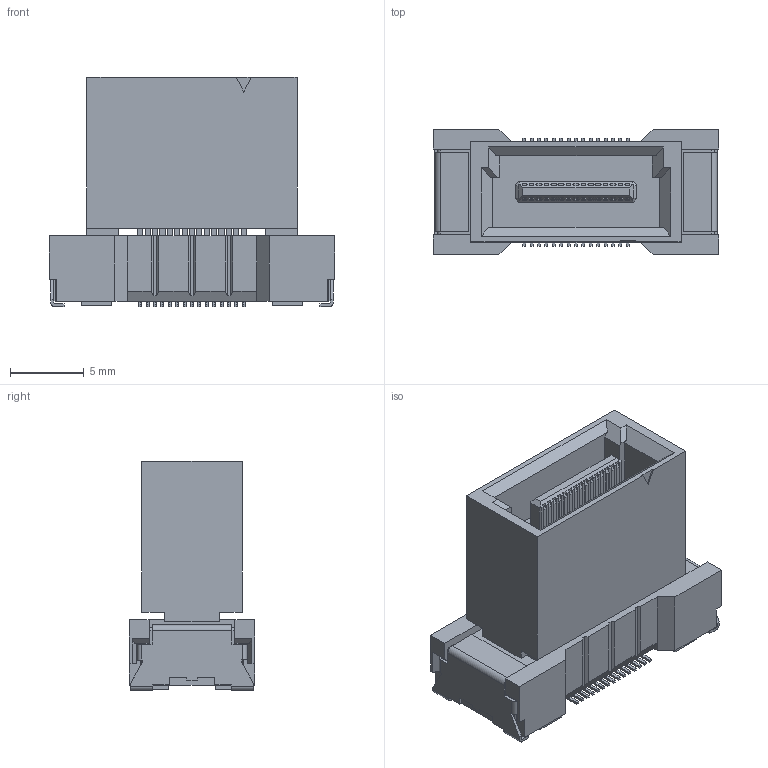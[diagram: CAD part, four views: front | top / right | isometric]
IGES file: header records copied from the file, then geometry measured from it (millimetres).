
Start section: Elysium IGES Interface
Global section: file name: 146HG:\その他\DT関連\【59期以前】\DT_CADﾃﾞｰﾀ\DT_3DCAD\DT0□\FS-10\60-36-0113_WEBサイトアップロード用\ボス無し_DT00-XXXFS-10\P3E104_DT00-030FS-10-T.igs; native system: Creo Elements/Direct Modeling 20.4A  18-Oct-2021; preprocessor: Creo Element/Direct IGES_3D V2.2; author: Unknown; organization: Unknown; date: 20220225.174209; units: millimetre
Bounding box: 19.3 x 8.5 x 15.5 mm (x, y, z)
Volume: 1444.5 mm3; surface area: 1457.5 mm2
Topology: 1 solids, 1 shells, 1027 faces, 2889 edges, 1894 vertices
Faces by surface type: bspline 1027
